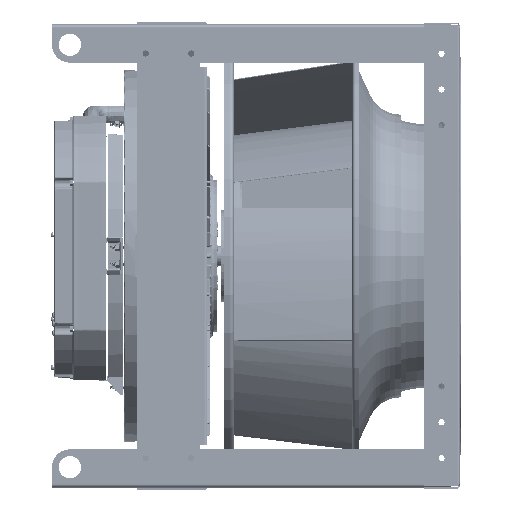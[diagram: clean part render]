
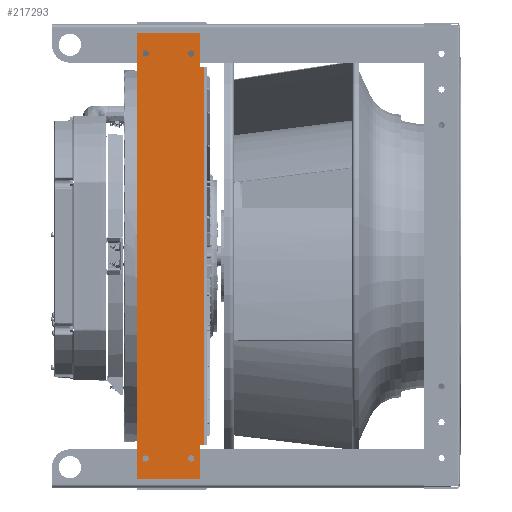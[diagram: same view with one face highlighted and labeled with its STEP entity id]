
A CAD part, front view. The second image highlights one B-rep face of the part: STEP entity #217293.
In plain terms, the highlighted planar face has unit normal (0, -1, 0) as drawn and (0, 0, 1) by its records, which use the part's own axes.
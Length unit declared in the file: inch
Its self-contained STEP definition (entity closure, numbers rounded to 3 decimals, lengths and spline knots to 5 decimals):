
#2786 = CARTESIAN_POINT ( 'NONE',  ( -11.305, 1.27, 0.135 ) ) ;
#5542 = DIRECTION ( 'NONE',  ( 1., 0., 0. ) ) ;
#7467 = ORIENTED_EDGE ( 'NONE', *, *, #222497, .T. ) ;
#8232 = EDGE_LOOP ( 'NONE', ( #54804 ) ) ;
#9878 = VERTEX_POINT ( 'NONE', #14462 ) ;
#12052 = VECTOR ( 'NONE', #270190, 39.37008 ) ;
#12422 = CARTESIAN_POINT ( 'NONE',  ( 11.133, 1.27, 0.135 ) ) ;
#13436 = CIRCLE ( 'NONE', #127100, 0.172 ) ;
#14462 = CARTESIAN_POINT ( 'NONE',  ( -10.555, 1.77, 0.135 ) ) ;
#16007 = VERTEX_POINT ( 'NONE', #251559 ) ;
#16895 = EDGE_CURVE ( 'NONE', #252325, #97218, #214141, .T. ) ;
#18407 = LINE ( 'NONE', #267841, #43397 ) ;
#19079 = DIRECTION ( 'NONE',  ( -1., 0., 0. ) ) ;
#20287 = ORIENTED_EDGE ( 'NONE', *, *, #101233, .T. ) ;
#20733 = CARTESIAN_POINT ( 'NONE',  ( -12.465, -1.77, 0.135 ) ) ;
#21713 = CARTESIAN_POINT ( 'NONE',  ( 12.465, 1.77, 0.135 ) ) ;
#23055 = DIRECTION ( 'NONE',  ( -1., 0., 0. ) ) ;
#24048 = VECTOR ( 'NONE', #111451, 39.37008 ) ;
#25485 = VERTEX_POINT ( 'NONE', #67731 ) ;
#25629 = VERTEX_POINT ( 'NONE', #214782 ) ;
#26362 = CARTESIAN_POINT ( 'NONE',  ( 10.555, 1.9775, 0.135 ) ) ;
#26928 = DIRECTION ( 'NONE',  ( 0., 0., 1. ) ) ;
#28458 = EDGE_CURVE ( 'NONE', #190530, #16007, #47028, .T. ) ;
#30849 = FACE_BOUND ( 'NONE', #256305, .T. ) ;
#31534 = AXIS2_PLACEMENT_3D ( 'NONE', #220022, #103021, #248384 ) ;
#38637 = FACE_BOUND ( 'NONE', #193217, .T. ) ;
#40004 = AXIS2_PLACEMENT_3D ( 'NONE', #214708, #26928, #195465 ) ;
#43397 = VECTOR ( 'NONE', #185587, 39.37008 ) ;
#46148 = VERTEX_POINT ( 'NONE', #236708 ) ;
#47028 = LINE ( 'NONE', #234876, #120801 ) ;
#54804 = ORIENTED_EDGE ( 'NONE', *, *, #253566, .F. ) ;
#58695 = VERTEX_POINT ( 'NONE', #21713 ) ;
#67116 = DIRECTION ( 'NONE',  ( 0., 0., 1. ) ) ;
#67481 = DIRECTION ( 'NONE',  ( -1., 0., 0. ) ) ;
#67623 = EDGE_CURVE ( 'NONE', #58695, #97218, #18407, .T. ) ;
#67731 = CARTESIAN_POINT ( 'NONE',  ( -10.555, 1.9775, 0.135 ) ) ;
#69850 = CARTESIAN_POINT ( 'NONE',  ( 11.305, -1.27, 0.135 ) ) ;
#73171 = VECTOR ( 'NONE', #23055, 39.37008 ) ;
#84700 = CARTESIAN_POINT ( 'NONE',  ( -12.465, -1.77, 0.135 ) ) ;
#92078 = ORIENTED_EDGE ( 'NONE', *, *, #268223, .F. ) ;
#93687 = EDGE_LOOP ( 'NONE', ( #20287, #154253, #209073, #260865, #148667, #114697, #7467, #215974 ) ) ;
#95944 = AXIS2_PLACEMENT_3D ( 'NONE', #2786, #67116, #153508 ) ;
#97218 = VERTEX_POINT ( 'NONE', #104204 ) ;
#100596 = EDGE_CURVE ( 'NONE', #9878, #214463, #103908, .T. ) ;
#101233 = EDGE_CURVE ( 'NONE', #214463, #190530, #246952, .T. ) ;
#101842 = VECTOR ( 'NONE', #252416, 39.37008 ) ;
#103021 = DIRECTION ( 'NONE',  ( 0., 0., -1. ) ) ;
#103908 = LINE ( 'NONE', #230037, #73171 ) ;
#104204 = CARTESIAN_POINT ( 'NONE',  ( 10.555, 1.77, 0.135 ) ) ;
#108448 = LINE ( 'NONE', #168844, #101842 ) ;
#109973 = DIRECTION ( 'NONE',  ( 0., -1., 0. ) ) ;
#111369 = CARTESIAN_POINT ( 'NONE',  ( -11.305, -1.27, 0.135 ) ) ;
#111451 = DIRECTION ( 'NONE',  ( 0., -1., 0. ) ) ;
#114697 = ORIENTED_EDGE ( 'NONE', *, *, #166278, .T. ) ;
#120801 = VECTOR ( 'NONE', #199085, 39.37008 ) ;
#122250 = FACE_BOUND ( 'NONE', #184181, .T. ) ;
#127100 = AXIS2_PLACEMENT_3D ( 'NONE', #111369, #192276, #67481 ) ;
#128585 = EDGE_CURVE ( 'NONE', #16007, #58695, #108448, .T. ) ;
#129867 = ORIENTED_EDGE ( 'NONE', *, *, #251802, .F. ) ;
#133322 = LINE ( 'NONE', #155294, #24048 ) ;
#134274 = VECTOR ( 'NONE', #109973, 39.37008 ) ;
#135101 = CIRCLE ( 'NONE', #152796, 0.172 ) ;
#137737 = FACE_OUTER_BOUND ( 'NONE', #93687, .T. ) ;
#141223 = VERTEX_POINT ( 'NONE', #12422 ) ;
#148667 = ORIENTED_EDGE ( 'NONE', *, *, #16895, .F. ) ;
#152796 = AXIS2_PLACEMENT_3D ( 'NONE', #69850, #252316, #5542 ) ;
#153508 = DIRECTION ( 'NONE',  ( 1., 0., 0. ) ) ;
#154253 = ORIENTED_EDGE ( 'NONE', *, *, #28458, .T. ) ;
#155294 = CARTESIAN_POINT ( 'NONE',  ( -10.555, 1.9775, 0.135 ) ) ;
#156966 = FACE_BOUND ( 'NONE', #8232, .T. ) ;
#164798 = PLANE ( 'NONE',  #31534 ) ;
#165177 = VECTOR ( 'NONE', #19079, 39.37008 ) ;
#166278 = EDGE_CURVE ( 'NONE', #252325, #25485, #173446, .T. ) ;
#168844 = CARTESIAN_POINT ( 'NONE',  ( 12.465, -1.77, 0.135 ) ) ;
#170423 = CIRCLE ( 'NONE', #95944, 0.172 ) ;
#173446 = LINE ( 'NONE', #237816, #165177 ) ;
#179119 = CARTESIAN_POINT ( 'NONE',  ( 10.555, 1.9775, 0.135 ) ) ;
#184181 = EDGE_LOOP ( 'NONE', ( #262783 ) ) ;
#185587 = DIRECTION ( 'NONE',  ( -1., 0., 0. ) ) ;
#186376 = CARTESIAN_POINT ( 'NONE',  ( -11.477, -1.27, 0.135 ) ) ;
#190530 = VERTEX_POINT ( 'NONE', #84700 ) ;
#191441 = VERTEX_POINT ( 'NONE', #186376 ) ;
#192276 = DIRECTION ( 'NONE',  ( 0., 0., 1. ) ) ;
#193217 = EDGE_LOOP ( 'NONE', ( #92078 ) ) ;
#195465 = DIRECTION ( 'NONE',  ( -1., 0., 0. ) ) ;
#199085 = DIRECTION ( 'NONE',  ( 1., 0., 0. ) ) ;
#208943 = CARTESIAN_POINT ( 'NONE',  ( -12.465, 1.77, 0.135 ) ) ;
#209073 = ORIENTED_EDGE ( 'NONE', *, *, #128585, .T. ) ;
#214141 = LINE ( 'NONE', #26362, #134274 ) ;
#214463 = VERTEX_POINT ( 'NONE', #208943 ) ;
#214708 = CARTESIAN_POINT ( 'NONE',  ( 11.305, 1.27, 0.135 ) ) ;
#214782 = CARTESIAN_POINT ( 'NONE',  ( 11.477, -1.27, 0.135 ) ) ;
#215974 = ORIENTED_EDGE ( 'NONE', *, *, #100596, .T. ) ;
#217293 = ADVANCED_FACE ( 'NONE', ( #137737, #38637, #156966, #30849, #122250 ), #164798, .F. ) ;
#220022 = CARTESIAN_POINT ( 'NONE',  ( 0., 0., 0.135 ) ) ;
#222497 = EDGE_CURVE ( 'NONE', #25485, #9878, #133322, .T. ) ;
#228292 = CIRCLE ( 'NONE', #40004, 0.172 ) ;
#230037 = CARTESIAN_POINT ( 'NONE',  ( -12.465, 1.77, 0.135 ) ) ;
#234876 = CARTESIAN_POINT ( 'NONE',  ( -12.465, -1.77, 0.135 ) ) ;
#236708 = CARTESIAN_POINT ( 'NONE',  ( -11.133, 1.27, 0.135 ) ) ;
#237816 = CARTESIAN_POINT ( 'NONE',  ( 10.555, 1.9775, 0.135 ) ) ;
#246952 = LINE ( 'NONE', #20733, #12052 ) ;
#248384 = DIRECTION ( 'NONE',  ( -1., 0., 0. ) ) ;
#251559 = CARTESIAN_POINT ( 'NONE',  ( 12.465, -1.77, 0.135 ) ) ;
#251802 = EDGE_CURVE ( 'NONE', #25629, #25629, #135101, .T. ) ;
#252316 = DIRECTION ( 'NONE',  ( 0., 0., 1. ) ) ;
#252325 = VERTEX_POINT ( 'NONE', #179119 ) ;
#252416 = DIRECTION ( 'NONE',  ( 0., 1., 0. ) ) ;
#253566 = EDGE_CURVE ( 'NONE', #46148, #46148, #170423, .T. ) ;
#256305 = EDGE_LOOP ( 'NONE', ( #129867 ) ) ;
#256965 = EDGE_CURVE ( 'NONE', #141223, #141223, #228292, .T. ) ;
#260865 = ORIENTED_EDGE ( 'NONE', *, *, #67623, .T. ) ;
#262783 = ORIENTED_EDGE ( 'NONE', *, *, #256965, .F. ) ;
#267841 = CARTESIAN_POINT ( 'NONE',  ( -12.465, 1.77, 0.135 ) ) ;
#268223 = EDGE_CURVE ( 'NONE', #191441, #191441, #13436, .T. ) ;
#270190 = DIRECTION ( 'NONE',  ( 0., -1., 0. ) ) ;
